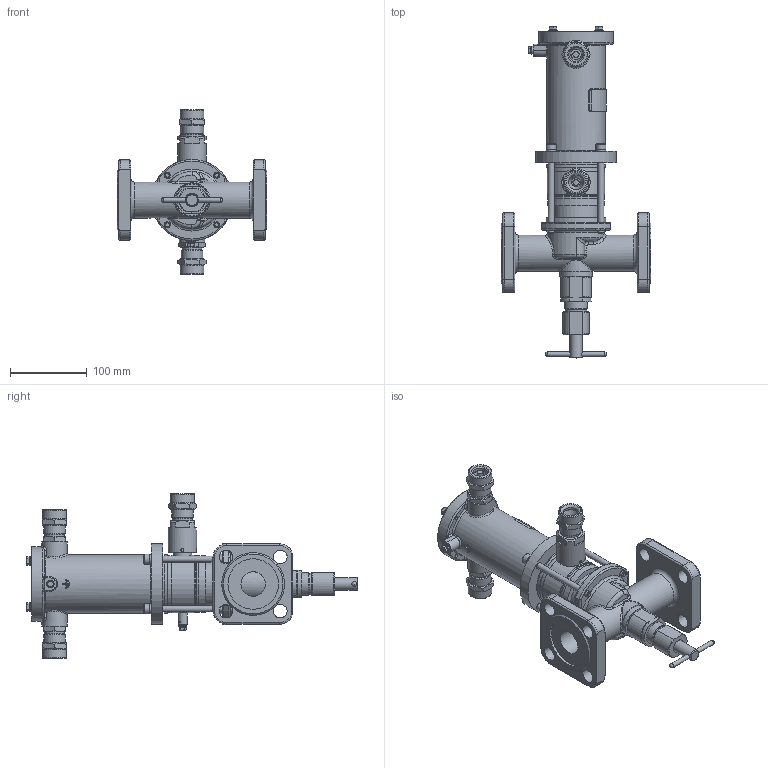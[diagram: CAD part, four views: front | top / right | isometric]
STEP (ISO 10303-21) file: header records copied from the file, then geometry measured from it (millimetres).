
FILE_DESCRIPTION(('STEP AP203'), '1');
FILE_NAME('ÑÅÍÑ-ÏÐ DN32PN25-ÄÏ1.stp', '2018-10-09T08:06:50', ('Îðëîâ Å.Â.'), ('ÎÎÎ ÍÏÏ Ñåíñîð'), 'ASCON STEP Converter 1.3', 'Kompas 3D', '');
FILE_SCHEMA(('CONFIG_CONTROL_DESIGN','SUPPORT_RESOURCE_SCHEMA'));
Length unit declared in the file: millimetre
Products named in the file (1): 54
Bounding box: 196 x 433.86 x 215 mm (x, y, z)
Volume: 1344851 mm3; surface area: 399463.5 mm2
Topology: 3 solids, 26 shells, 2172 faces, 5644 edges, 3654 vertices
Faces by surface type: cylinder 1085, plane 804, cone 160, torus 55, bspline 50, extrusion 16, sphere 2
Full cylindrical faces by diameter (mm): 2.459 x1, 3.5 x2, 4.134 x6, 4.917 x4, 5 x2, 5.3 x1, 6 x13, 6.2 x1, 6.5 x4, 8 x14, 8.2 x1, 8.5 x1, 9 x4, 10 x2, 11 x1, 12 x6, 13 x8, 16 x3, 16.004 x2, 17 x2, 17.5 x1, 18 x9, 18.632 x2, 19.9 x1, 20 x3, 21 x1, 22 x2, 22.376 x2, 23 x2, 23.5 x3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
Entity records: 83498 total; most frequent: CARTESIAN_POINT 29230, DIRECTION 11735, ORIENTED_EDGE 11212, EDGE_CURVE 5606, AXIS2_PLACEMENT_3D 4541, VERTEX_POINT 3646, VECTOR 2653, LINE 2637
